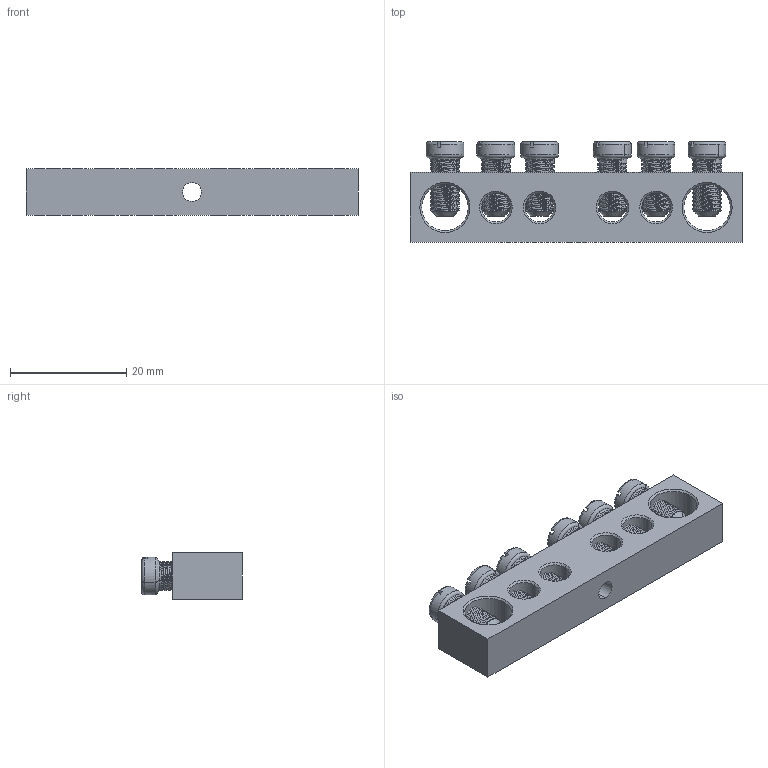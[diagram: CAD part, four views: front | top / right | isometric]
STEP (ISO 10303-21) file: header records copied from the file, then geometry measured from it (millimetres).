
FILE_DESCRIPTION (( 'STEP AP214' ), '1' );
FILE_NAME ('Øèíà íóëåâàÿ ñ êðåïåæíûì îòâåðñòèåì ïî öåíòðó 8õ12 6-1.STEP', '2020-02-07T06:04:16', ( '' ), ( '' ), 'SwSTEP 2.0', 'SolidWorks 2018', '' );
FILE_SCHEMA (( 'AUTOMOTIVE_DESIGN' ));
Length unit declared in the file: millimetre
Products named in the file (3): Âèíò ì5; Øèíà 8õ12 6 1; Øèíà íóëåâàÿ ñ êðåïåæíûì îòâåðñòèåì ïî öåíòðó 8õ12 6-1
Assembly tree (7 placements, depth 2):
  Øèíà íóëåâàÿ ñ êðåïåæíûì îòâåðñòèåì ïî öåíòðó 8õ12 6-1
    Øèíà 8õ12 6 1
    Âèíò ì5  x6
Bounding box: 57 x 17.3 x 8 mm (x, y, z)
Volume: 5206.2 mm3; surface area: 5174.6 mm2
Topology: 7 solids, 7 shells, 506 faces, 1398 edges, 900 vertices
Faces by surface type: cylinder 194, plane 168, cone 84, torus 42, bspline 18
Entity records: 6551 total; most frequent: CARTESIAN_POINT 3149, ORIENTED_EDGE 692, DIRECTION 619, EDGE_CURVE 346, AXIS2_PLACEMENT_3D 239, VERTEX_POINT 220, EDGE_LOOP 158, VECTOR 141
